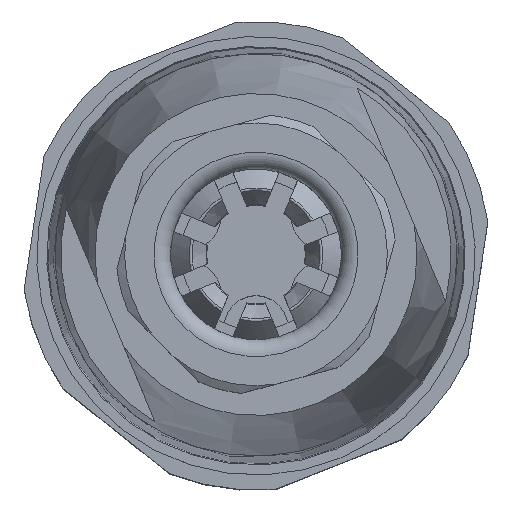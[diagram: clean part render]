
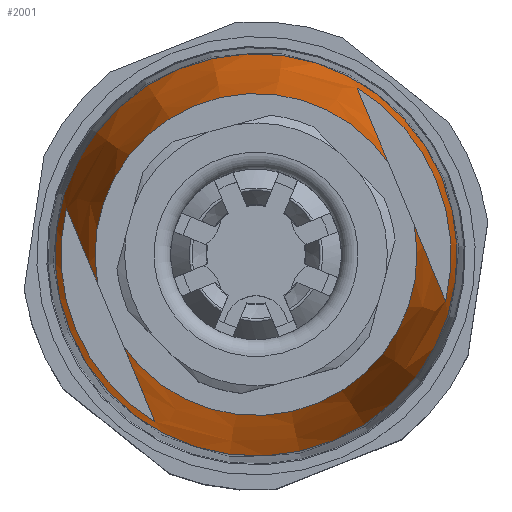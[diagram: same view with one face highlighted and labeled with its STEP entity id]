
A CAD part, top view. The second image highlights one B-rep face of the part: STEP entity #2001.
In plain terms, the highlighted conical face has half-angle 9.796 degrees and reference radius 12.018 mm.
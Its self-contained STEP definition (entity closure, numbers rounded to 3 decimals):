
#196=CONICAL_SURFACE('',#7695,12.018,9.796);
#1719=B_SPLINE_CURVE_WITH_KNOTS('',3,(#14849,#14850,#14851,#14852,#14853,
#14854,#14855,#14856),.UNSPECIFIED.,.F.,.F.,(4,2,2,4),(0.,0.5,
0.75,1.),.UNSPECIFIED.);
#1720=B_SPLINE_CURVE_WITH_KNOTS('',3,(#14860,#14861,#14862,#14863,#14864,
#14865,#14866,#14867),.UNSPECIFIED.,.F.,.F.,(4,2,2,4),(0.,0.5,0.75,1.),
 .UNSPECIFIED.);
#1721=B_SPLINE_CURVE_WITH_KNOTS('',3,(#14871,#14872,#14873,#14874,#14875,
#14876,#14877,#14878),.UNSPECIFIED.,.F.,.F.,(4,2,2,4),(0.,0.25,
0.5,1.),.UNSPECIFIED.);
#1722=B_SPLINE_CURVE_WITH_KNOTS('',3,(#14882,#14883,#14884,#14885,#14886,
#14887,#14888,#14889),.UNSPECIFIED.,.F.,.F.,(4,2,2,4),(0.,0.25,
0.5,1.),.UNSPECIFIED.);
#2001=ADVANCED_FACE('',(#2321,#2322),#196,.T.);
#2321=FACE_BOUND('',#2710,.T.);
#2322=FACE_BOUND('',#2711,.T.);
#2710=EDGE_LOOP('',(#4346));
#2711=EDGE_LOOP('',(#4347,#4348,#4349,#4350,#4351,#4352,#4353,#4354));
#4346=ORIENTED_EDGE('',*,*,#6442,.T.);
#4347=ORIENTED_EDGE('',*,*,#6443,.T.);
#4348=ORIENTED_EDGE('',*,*,#6444,.T.);
#4349=ORIENTED_EDGE('',*,*,#6445,.T.);
#4350=ORIENTED_EDGE('',*,*,#6446,.F.);
#4351=ORIENTED_EDGE('',*,*,#6447,.F.);
#4352=ORIENTED_EDGE('',*,*,#6448,.F.);
#4353=ORIENTED_EDGE('',*,*,#6449,.T.);
#4354=ORIENTED_EDGE('',*,*,#6450,.T.);
#5489=VERTEX_POINT('',#14845);
#5490=VERTEX_POINT('',#14847);
#5491=VERTEX_POINT('',#14848);
#5492=VERTEX_POINT('',#14857);
#5493=VERTEX_POINT('',#14859);
#5494=VERTEX_POINT('',#14868);
#5495=VERTEX_POINT('',#14870);
#5496=VERTEX_POINT('',#14879);
#5497=VERTEX_POINT('',#14881);
#6442=EDGE_CURVE('',#5489,#5489,#7041,.T.);
#6443=EDGE_CURVE('',#5490,#5491,#7042,.T.);
#6444=EDGE_CURVE('',#5491,#5492,#1719,.T.);
#6445=EDGE_CURVE('',#5492,#5493,#7043,.T.);
#6446=EDGE_CURVE('',#5494,#5493,#1720,.T.);
#6447=EDGE_CURVE('',#5495,#5494,#7044,.T.);
#6448=EDGE_CURVE('',#5496,#5495,#1721,.T.);
#6449=EDGE_CURVE('',#5496,#5497,#7045,.T.);
#6450=EDGE_CURVE('',#5497,#5490,#1722,.T.);
#7041=CIRCLE('',#7690,12.016);
#7042=CIRCLE('',#7691,11.656);
#7043=CIRCLE('',#7692,9.618);
#7044=CIRCLE('',#7693,11.656);
#7045=CIRCLE('',#7694,9.618);
#7690=AXIS2_PLACEMENT_3D('',#14844,#9246,#9247);
#7691=AXIS2_PLACEMENT_3D('',#14846,#9248,#9249);
#7692=AXIS2_PLACEMENT_3D('',#14858,#9250,#9251);
#7693=AXIS2_PLACEMENT_3D('',#14869,#9252,#9253);
#7694=AXIS2_PLACEMENT_3D('',#14880,#9254,#9255);
#7695=AXIS2_PLACEMENT_3D('',#14890,#9256,#9257);
#9246=DIRECTION('',(0.,0.,1.));
#9247=DIRECTION('',(-0.924,-0.383,0.));
#9248=DIRECTION('',(0.,0.,-1.));
#9249=DIRECTION('',(-0.924,-0.383,0.));
#9250=DIRECTION('',(0.,0.,-1.));
#9251=DIRECTION('',(0.924,0.383,0.));
#9252=DIRECTION('',(0.,0.,1.));
#9253=DIRECTION('',(0.924,0.383,0.));
#9254=DIRECTION('',(0.,0.,-1.));
#9255=DIRECTION('',(0.924,0.383,0.));
#9256=DIRECTION('',(0.,0.,-1.));
#9257=DIRECTION('',(-0.924,-0.383,0.));
#14844=CARTESIAN_POINT('',(-54.915,5.739,63.216));
#14845=CARTESIAN_POINT('',(-66.014,1.137,63.216));
#14846=CARTESIAN_POINT('',(-54.915,5.739,65.3));
#14847=CARTESIAN_POINT('',(-60.958,-4.227,65.3));
#14848=CARTESIAN_POINT('',(-66.238,8.505,65.3));
#14849=CARTESIAN_POINT('',(-66.238,8.505,65.3));
#14850=CARTESIAN_POINT('',(-66.008,7.951,67.353));
#14851=CARTESIAN_POINT('',(-65.763,7.361,69.39));
#14852=CARTESIAN_POINT('',(-65.336,6.331,72.38));
#14853=CARTESIAN_POINT('',(-65.184,5.964,73.366));
#14854=CARTESIAN_POINT('',(-64.835,5.123,75.291));
#14855=CARTESIAN_POINT('',(-64.647,4.669,76.239));
#14856=CARTESIAN_POINT('',(-64.378,4.021,77.1));
#14857=CARTESIAN_POINT('',(-64.378,4.021,77.1));
#14858=CARTESIAN_POINT('',(-54.915,5.739,77.1));
#14859=CARTESIAN_POINT('',(-47.012,11.222,77.1));
#14860=CARTESIAN_POINT('',(-48.871,15.706,65.3));
#14861=CARTESIAN_POINT('',(-48.642,15.152,67.353));
#14862=CARTESIAN_POINT('',(-48.397,14.563,69.39));
#14863=CARTESIAN_POINT('',(-47.97,13.533,72.38));
#14864=CARTESIAN_POINT('',(-47.818,13.165,73.366));
#14865=CARTESIAN_POINT('',(-47.469,12.324,75.291));
#14866=CARTESIAN_POINT('',(-47.281,11.87,76.239));
#14867=CARTESIAN_POINT('',(-47.012,11.222,77.1));
#14868=CARTESIAN_POINT('',(-48.871,15.706,65.3));
#14869=CARTESIAN_POINT('',(-54.915,5.739,65.3));
#14870=CARTESIAN_POINT('',(-43.592,2.974,65.3));
#14871=CARTESIAN_POINT('',(-45.451,7.458,77.1));
#14872=CARTESIAN_POINT('',(-45.189,6.825,76.259));
#14873=CARTESIAN_POINT('',(-44.999,6.368,75.317));
#14874=CARTESIAN_POINT('',(-44.649,5.525,73.391));
#14875=CARTESIAN_POINT('',(-44.496,5.154,72.397));
#14876=CARTESIAN_POINT('',(-44.066,4.118,69.392));
#14877=CARTESIAN_POINT('',(-43.821,3.528,67.353));
#14878=CARTESIAN_POINT('',(-43.592,2.974,65.3));
#14879=CARTESIAN_POINT('',(-45.451,7.458,77.1));
#14880=CARTESIAN_POINT('',(-54.915,5.739,77.1));
#14881=CARTESIAN_POINT('',(-62.817,0.257,77.1));
#14882=CARTESIAN_POINT('',(-62.817,0.257,77.1));
#14883=CARTESIAN_POINT('',(-62.555,-0.376,76.259));
#14884=CARTESIAN_POINT('',(-62.365,-0.833,75.317));
#14885=CARTESIAN_POINT('',(-62.016,-1.677,73.391));
#14886=CARTESIAN_POINT('',(-61.862,-2.048,72.397));
#14887=CARTESIAN_POINT('',(-61.432,-3.083,69.392));
#14888=CARTESIAN_POINT('',(-61.187,-3.673,67.353));
#14889=CARTESIAN_POINT('',(-60.958,-4.227,65.3));
#14890=CARTESIAN_POINT('',(-54.915,5.739,63.2));
